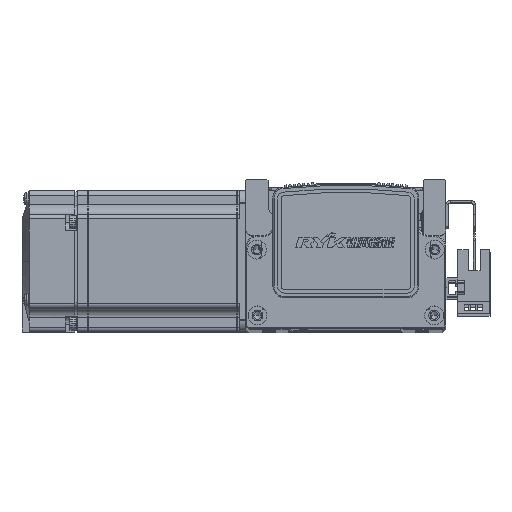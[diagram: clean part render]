
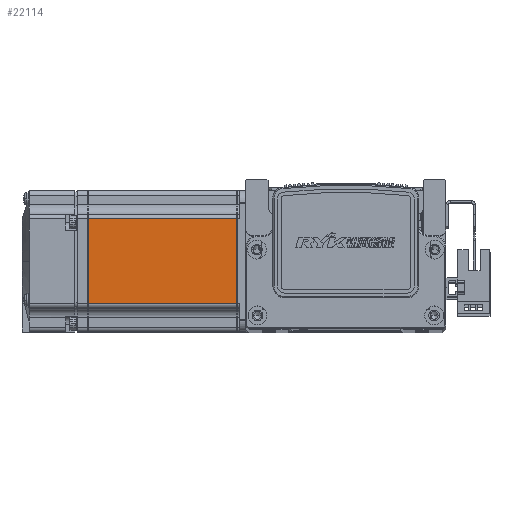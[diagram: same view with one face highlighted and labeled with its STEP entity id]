
A CAD part, top view. The second image highlights one B-rep face of the part: STEP entity #22114.
In plain terms, the highlighted planar face has unit normal (0, 0, 1) as drawn and (0, 0, -1) by its records, which use the part's own axes.
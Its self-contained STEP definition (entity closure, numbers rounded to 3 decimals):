
#10033 = VECTOR ( 'NONE', #55733, 1000. ) ;
#10055 = LINE ( 'NONE', #55718, #10033 ) ;
#10205 = LINE ( 'NONE', #55818, #10267 ) ;
#10267 = VECTOR ( 'NONE', #55782, 1000. ) ;
#10291 = LINE ( 'NONE', #55971, #10299 ) ;
#10293 = LINE ( 'NONE', #55896, #10329 ) ;
#10299 = VECTOR ( 'NONE', #55973, 1000. ) ;
#10329 = VECTOR ( 'NONE', #55865, 1000. ) ;
#17025 = AXIS2_PLACEMENT_3D ( 'NONE', #29842, #29838, #29839 ) ;
#22114 = ADVANCED_FACE ( 'NONE', ( #41579 ), #29847, .T. ) ;
#28915 = EDGE_LOOP ( 'NONE', ( #55469, #55453, #55443, #55434 ) ) ;
#29838 = DIRECTION ( 'NONE',  ( 0., 0., -1. ) ) ;
#29839 = DIRECTION ( 'NONE',  ( -1., 0., 0. ) ) ;
#29842 = CARTESIAN_POINT ( 'NONE',  ( -6.5, 25., -30. ) ) ;
#29847 = PLANE ( 'NONE',  #17025 ) ;
#41579 = FACE_OUTER_BOUND ( 'NONE', #28915, .T. ) ;
#54206 = EDGE_CURVE ( 'NONE', #58385, #57806, #10055, .T. ) ;
#54278 = EDGE_CURVE ( 'NONE', #57815, #57837, #10205, .T. ) ;
#54343 = EDGE_CURVE ( 'NONE', #57837, #58385, #10293, .T. ) ;
#54349 = EDGE_CURVE ( 'NONE', #57806, #57815, #10291, .T. ) ;
#55434 = ORIENTED_EDGE ( 'NONE', *, *, #54343, .T. ) ;
#55443 = ORIENTED_EDGE ( 'NONE', *, *, #54278, .T. ) ;
#55453 = ORIENTED_EDGE ( 'NONE', *, *, #54349, .T. ) ;
#55469 = ORIENTED_EDGE ( 'NONE', *, *, #54206, .T. ) ;
#55718 = CARTESIAN_POINT ( 'NONE',  ( -7.75, 25., -30. ) ) ;
#55733 = DIRECTION ( 'NONE',  ( 0., -1., 0. ) ) ;
#55782 = DIRECTION ( 'NONE',  ( 0., 1., 0. ) ) ;
#55818 = CARTESIAN_POINT ( 'NONE',  ( -70.95, 25., -30. ) ) ;
#55865 = DIRECTION ( 'NONE',  ( 1., 0., 0. ) ) ;
#55896 = CARTESIAN_POINT ( 'NONE',  ( -6.5, 18., -30. ) ) ;
#55971 = CARTESIAN_POINT ( 'NONE',  ( -6.5, -18., -30. ) ) ;
#55973 = DIRECTION ( 'NONE',  ( -1., 0., 0. ) ) ;
#56280 = CARTESIAN_POINT ( 'NONE',  ( -7.75, -18., -30. ) ) ;
#56303 = CARTESIAN_POINT ( 'NONE',  ( -70.95, -18., -30. ) ) ;
#56323 = CARTESIAN_POINT ( 'NONE',  ( -70.95, 18., -30. ) ) ;
#56907 = CARTESIAN_POINT ( 'NONE',  ( -7.75, 18., -30. ) ) ;
#57806 = VERTEX_POINT ( 'NONE', #56280 ) ;
#57815 = VERTEX_POINT ( 'NONE', #56303 ) ;
#57837 = VERTEX_POINT ( 'NONE', #56323 ) ;
#58385 = VERTEX_POINT ( 'NONE', #56907 ) ;
